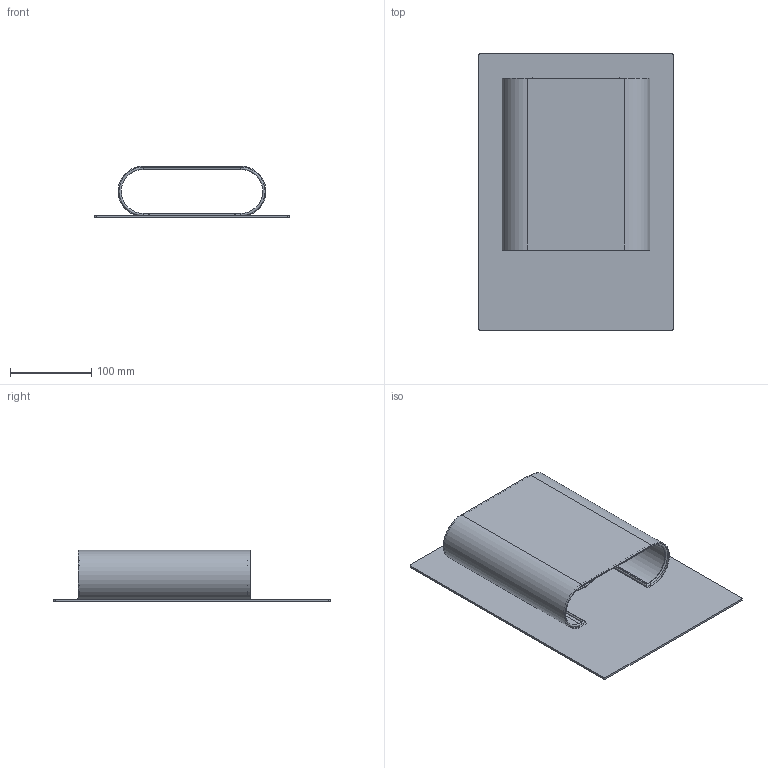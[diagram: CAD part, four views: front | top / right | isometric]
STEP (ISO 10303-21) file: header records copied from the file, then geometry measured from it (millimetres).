
FILE_DESCRIPTION (( 'STEP AP214' ), '1' );
FILE_NAME ('Elwood Portrait Indoor - Lightweight.STEP', '2023-09-04T04:10:24', ( '' ), ( '' ), 'SwSTEP 2.0', 'SolidWorks 2017', '' );
FILE_SCHEMA (( 'AUTOMOTIVE_DESIGN' ));
Length unit declared in the file: millimetre
Products named in the file (1): Elwood Portrait Indoor - Lightweight
Bounding box: 240 x 340 x 63.5 mm (x, y, z)
Volume: 285479.4 mm3; surface area: 320231.9 mm2
Topology: 5 solids, 5 shells, 72 faces, 168 edges, 104 vertices
Faces by surface type: cylinder 36, plane 28, torus 8
Entity records: 2968 total; most frequent: CARTESIAN_POINT 433, DIRECTION 364, ORIENTED_EDGE 336, EDGE_CURVE 168, AXIS2_PLACEMENT_3D 139, VERTEX_POINT 104, VECTOR 86, LINE 86
